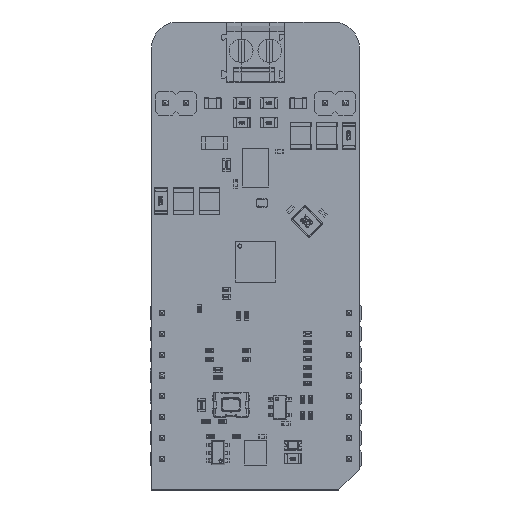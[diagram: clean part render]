
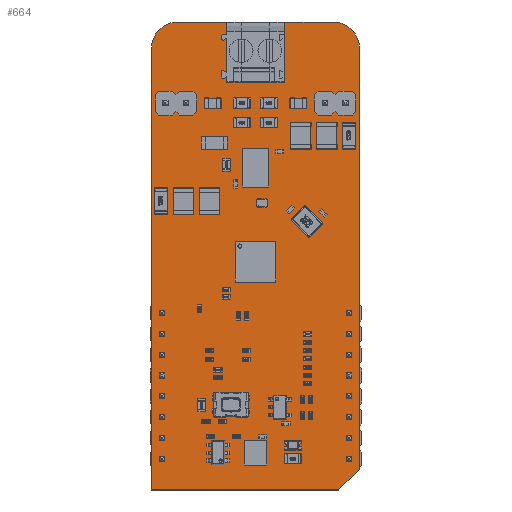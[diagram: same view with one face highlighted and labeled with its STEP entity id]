
A CAD part, top view. The second image highlights one B-rep face of the part: STEP entity #664.
In plain terms, the highlighted planar face has unit normal (0, 0, 1).
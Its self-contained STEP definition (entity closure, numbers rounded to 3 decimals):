
#435 = VERTEX_POINT('',#436);
#436 = CARTESIAN_POINT('',(-1.27,-3.81,0.));
#442 = EDGE_CURVE('',#435,#443,#445,.T.);
#443 = VERTEX_POINT('',#444);
#444 = CARTESIAN_POINT('',(-1.27,50.139,0.));
#445 = LINE('',#446,#447);
#446 = CARTESIAN_POINT('',(-1.27,-3.81,0.));
#447 = VECTOR('',#448,1.);
#448 = DIRECTION('',(0.,1.,0.));
#473 = EDGE_CURVE('',#443,#474,#476,.T.);
#474 = VERTEX_POINT('',#475);
#475 = CARTESIAN_POINT('',(1.931,53.34,0.));
#476 = CIRCLE('',#477,3.203);
#477 = AXIS2_PLACEMENT_3D('',#478,#479,#480);
#478 = CARTESIAN_POINT('',(1.933,50.137,0.));
#479 = DIRECTION('',(0.,0.,-1.));
#480 = DIRECTION('',(-1.,0.,0.));
#506 = EDGE_CURVE('',#474,#507,#509,.T.);
#507 = VERTEX_POINT('',#508);
#508 = CARTESIAN_POINT('',(20.905,53.34,0.));
#509 = LINE('',#510,#511);
#510 = CARTESIAN_POINT('',(1.931,53.34,0.));
#511 = VECTOR('',#512,1.);
#512 = DIRECTION('',(1.,0.,0.));
#537 = EDGE_CURVE('',#507,#538,#540,.T.);
#538 = VERTEX_POINT('',#539);
#539 = CARTESIAN_POINT('',(24.13,50.115,0.));
#540 = CIRCLE('',#541,3.226);
#541 = AXIS2_PLACEMENT_3D('',#542,#543,#544);
#542 = CARTESIAN_POINT('',(20.904,50.114,0.));
#543 = DIRECTION('',(0.,0.,-1.));
#544 = DIRECTION('',(0.,1.,0.));
#570 = EDGE_CURVE('',#538,#571,#573,.T.);
#571 = VERTEX_POINT('',#572);
#572 = CARTESIAN_POINT('',(24.13,-1.27,0.));
#573 = LINE('',#574,#575);
#574 = CARTESIAN_POINT('',(24.13,50.115,0.));
#575 = VECTOR('',#576,1.);
#576 = DIRECTION('',(0.,-1.,0.));
#601 = EDGE_CURVE('',#571,#602,#604,.T.);
#602 = VERTEX_POINT('',#603);
#603 = CARTESIAN_POINT('',(21.59,-3.81,0.));
#604 = LINE('',#605,#606);
#605 = CARTESIAN_POINT('',(24.13,-1.27,0.));
#606 = VECTOR('',#607,1.);
#607 = DIRECTION('',(-0.707,-0.707,0.));
#632 = EDGE_CURVE('',#602,#435,#633,.T.);
#633 = LINE('',#634,#635);
#634 = CARTESIAN_POINT('',(21.59,-3.81,0.));
#635 = VECTOR('',#636,1.);
#636 = DIRECTION('',(-1.,0.,0.));
#664 = ADVANCED_FACE('',(#665),#674,.T.);
#665 = FACE_BOUND('',#666,.F.);
#666 = EDGE_LOOP('',(#667,#668,#669,#670,#671,#672,#673));
#667 = ORIENTED_EDGE('',*,*,#442,.T.);
#668 = ORIENTED_EDGE('',*,*,#473,.T.);
#669 = ORIENTED_EDGE('',*,*,#506,.T.);
#670 = ORIENTED_EDGE('',*,*,#537,.T.);
#671 = ORIENTED_EDGE('',*,*,#570,.T.);
#672 = ORIENTED_EDGE('',*,*,#601,.T.);
#673 = ORIENTED_EDGE('',*,*,#632,.T.);
#674 = PLANE('',#675);
#675 = AXIS2_PLACEMENT_3D('',#676,#677,#678);
#676 = CARTESIAN_POINT('',(-1.27,-3.81,0.));
#677 = DIRECTION('',(0.,0.,1.));
#678 = DIRECTION('',(1.,0.,0.));
